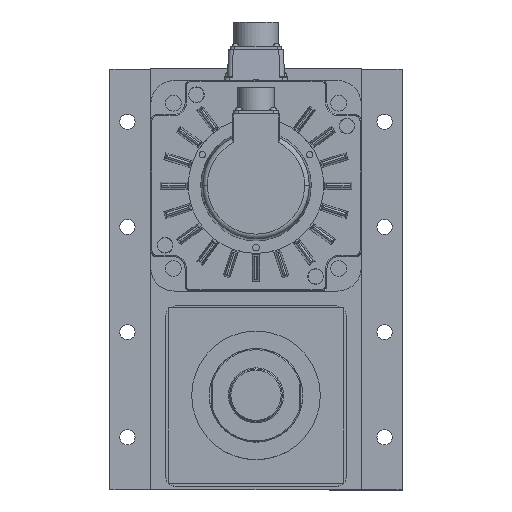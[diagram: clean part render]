
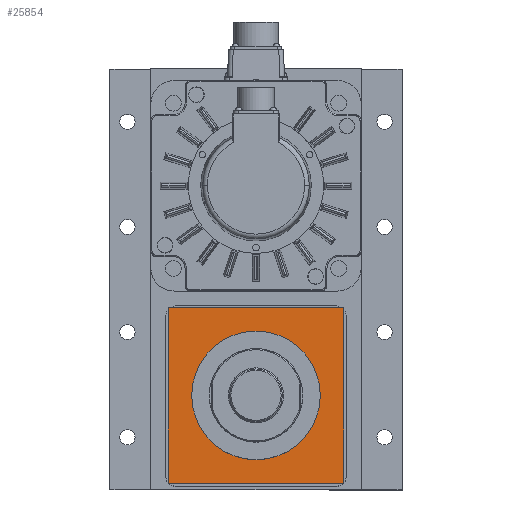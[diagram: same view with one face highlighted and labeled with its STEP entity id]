
A CAD part, top view. The second image highlights one B-rep face of the part: STEP entity #25854.
In plain terms, the highlighted planar face has unit normal (0, 0, 1).
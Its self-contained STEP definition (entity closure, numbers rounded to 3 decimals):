
#629 = VECTOR ( 'NONE', #16425, 1000. ) ;
#1031 = CIRCLE ( 'NONE', #26043, 55. ) ;
#1746 = DIRECTION ( 'NONE',  ( -1., 0., 0. ) ) ;
#2420 = DIRECTION ( 'NONE',  ( -1., 0., 0. ) ) ;
#2746 = CARTESIAN_POINT ( 'NONE',  ( 100., 75., 315. ) ) ;
#3383 = EDGE_CURVE ( 'NONE', #26720, #14521, #7069, .T. ) ;
#3391 = LINE ( 'NONE', #9740, #629 ) ;
#3610 = EDGE_CURVE ( 'NONE', #27303, #5748, #5629, .T. ) ;
#3692 = ORIENTED_EDGE ( 'NONE', *, *, #3610, .T. ) ;
#3898 = EDGE_LOOP ( 'NONE', ( #3692, #14749, #19619, #24745 ) ) ;
#5629 = LINE ( 'NONE', #19248, #7750 ) ;
#5748 = VERTEX_POINT ( 'NONE', #13356 ) ;
#5766 = AXIS2_PLACEMENT_3D ( 'NONE', #15875, #9496, #2420 ) ;
#6227 = LINE ( 'NONE', #2746, #23434 ) ;
#6875 = DIRECTION ( 'NONE',  ( 0., -1., 0. ) ) ;
#7069 = LINE ( 'NONE', #25006, #8787 ) ;
#7750 = VECTOR ( 'NONE', #14529, 1000. ) ;
#8188 = CARTESIAN_POINT ( 'NONE',  ( -75., 75., 315. ) ) ;
#8787 = VECTOR ( 'NONE', #6875, 1000. ) ;
#9496 = DIRECTION ( 'NONE',  ( 0., 0., 1. ) ) ;
#9740 = CARTESIAN_POINT ( 'NONE',  ( 100., -75., 315. ) ) ;
#10212 = CARTESIAN_POINT ( 'NONE',  ( 75., 75., 315. ) ) ;
#11049 = VERTEX_POINT ( 'NONE', #16100 ) ;
#12721 = FACE_BOUND ( 'NONE', #23255, .T. ) ;
#13356 = CARTESIAN_POINT ( 'NONE',  ( -75., -75., 315. ) ) ;
#13399 = CARTESIAN_POINT ( 'NONE',  ( 0., 0., 315. ) ) ;
#14261 = DIRECTION ( 'NONE',  ( -1., 0., 0. ) ) ;
#14521 = VERTEX_POINT ( 'NONE', #15519 ) ;
#14529 = DIRECTION ( 'NONE',  ( 0., -1., 0. ) ) ;
#14749 = ORIENTED_EDGE ( 'NONE', *, *, #28157, .T. ) ;
#15519 = CARTESIAN_POINT ( 'NONE',  ( 75., -75., 315. ) ) ;
#15654 = DIRECTION ( 'NONE',  ( -1., 0., 0. ) ) ;
#15875 = CARTESIAN_POINT ( 'NONE',  ( 0., 0., 315. ) ) ;
#16100 = CARTESIAN_POINT ( 'NONE',  ( 55., 0., 315. ) ) ;
#16425 = DIRECTION ( 'NONE',  ( 1., 0., 0. ) ) ;
#16857 = CARTESIAN_POINT ( 'NONE',  ( -55., 0., 315. ) ) ;
#18703 = FACE_OUTER_BOUND ( 'NONE', #3898, .T. ) ;
#19248 = CARTESIAN_POINT ( 'NONE',  ( -75., 0., 315. ) ) ;
#19619 = ORIENTED_EDGE ( 'NONE', *, *, #3383, .F. ) ;
#20144 = EDGE_CURVE ( 'NONE', #11049, #22602, #1031, .T. ) ;
#20274 = DIRECTION ( 'NONE',  ( 0., 0., -1. ) ) ;
#22602 = VERTEX_POINT ( 'NONE', #16857 ) ;
#23255 = EDGE_LOOP ( 'NONE', ( #27325, #26873 ) ) ;
#23434 = VECTOR ( 'NONE', #14261, 1000. ) ;
#23448 = AXIS2_PLACEMENT_3D ( 'NONE', #13399, #20274, #15654 ) ;
#24102 = CARTESIAN_POINT ( 'NONE',  ( 0., 0., 315. ) ) ;
#24745 = ORIENTED_EDGE ( 'NONE', *, *, #28180, .T. ) ;
#25006 = CARTESIAN_POINT ( 'NONE',  ( 75., 0., 315. ) ) ;
#25854 = ADVANCED_FACE ( 'NONE', ( #12721, #18703 ), #27187, .F. ) ;
#26043 = AXIS2_PLACEMENT_3D ( 'NONE', #24102, #28582, #1746 ) ;
#26720 = VERTEX_POINT ( 'NONE', #10212 ) ;
#26873 = ORIENTED_EDGE ( 'NONE', *, *, #20144, .F. ) ;
#27047 = EDGE_CURVE ( 'NONE', #22602, #11049, #27715, .T. ) ;
#27187 = PLANE ( 'NONE',  #23448 ) ;
#27303 = VERTEX_POINT ( 'NONE', #8188 ) ;
#27325 = ORIENTED_EDGE ( 'NONE', *, *, #27047, .F. ) ;
#27715 = CIRCLE ( 'NONE', #5766, 55. ) ;
#28157 = EDGE_CURVE ( 'NONE', #5748, #14521, #3391, .T. ) ;
#28180 = EDGE_CURVE ( 'NONE', #26720, #27303, #6227, .T. ) ;
#28582 = DIRECTION ( 'NONE',  ( 0., 0., 1. ) ) ;
